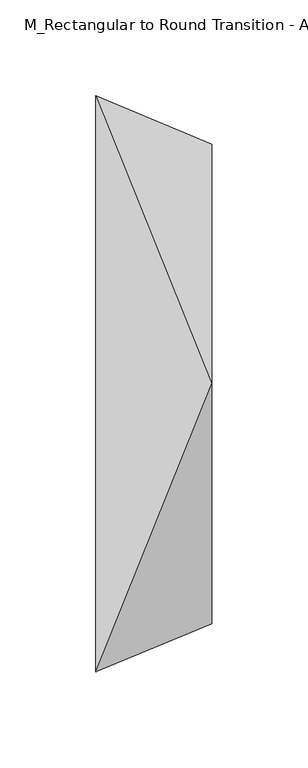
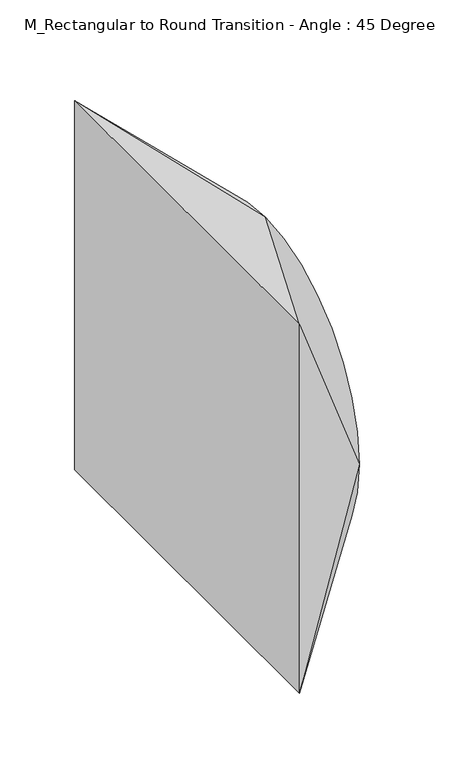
"""IFC4 building model written with IfcOpenShell, lengths in millimetres: duct fitting geometry, M_Rectangular to Round Transition - Angle : 45 Degree."""

from ifc_helpers import new_model, si_unit, frame, origin, place, context, project, spatial, circle_curve, source, transform, mapped, element, save
from ifc_brep_helpers import plane_surface, spline_surface, advanced_brep


def m_rectangular_to_round_transition_angle_45_degree_57822a91(model_context):
    return source(origin(), model_context, "Body", "AdvancedBrep", [
        advanced_brep(
        [(0.0, -150.0, -150.0), (0.0, -150.0, 150.0), (0.0, 150.0, 150.0), (0.0, 150.0, -150.0), (60.3553391, -125.0, -6.95e-05), (60.3553391, 0.0, -125.0000695), (60.3553391, 125.0, -6.95e-05), (60.3553391, 0.0, 124.9999305)],
        [
            (0, 1),
            (1, 2),
            (2, 3),
            (3, 0),
            (4, 5, circle_curve(frame((60.3553391, 0.0, -6.95e-05), z_axis=(1.0, 0.0, 0.0), x_axis=(0.0, -1.0, 0.0)), 125.0)),
            (5, 6, circle_curve(frame((60.3553391, 0.0, -6.95e-05), z_axis=(1.0, 0.0, 0.0), x_axis=(0.0, -1.0, 0.0)), 125.0)),
            (6, 7, circle_curve(frame((60.3553391, 0.0, -6.95e-05), z_axis=(1.0, 0.0, 0.0), x_axis=(0.0, -1.0, 0.0)), 125.0)),
            (7, 4, circle_curve(frame((60.3553391, 0.0, -6.95e-05), z_axis=(1.0, 0.0, 0.0), x_axis=(0.0, -1.0, 0.0)), 125.0)),
            (0, 4),
            (4, 1),
            (7, 1),
            (7, 2),
            (6, 2),
            (6, 3),
            (5, 3),
            (5, 0),
        ],
        [
            plane_surface(frame((0.0, 0.0, 0.0), z_axis=(-1.0, 0.0, 0.0), x_axis=(0.0, 1.0, 0.0))),
            plane_surface(frame((60.3553391, 0.0, -6.95e-05), z_axis=(1.0, 0.0, 0.0), x_axis=(0.0, 1.0, 0.0))),
            plane_surface(frame((60.3553391, -125.0, -6.95e-05), z_axis=(0.3826834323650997, -0.9238795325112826, 0.0), x_axis=(0.0, 0.0, 1.0))),
            spline_surface(2, 1, [[(60.3553391, -125.0, -6.95e-05), (0.0, -150.0, 150.0)], [(60.3553391, -125.0, 124.9999305), (0.0, -150.0, 150.0)], [(60.3553391, 0.0, 124.9999305), (0.0, -150.0, 150.0)]], [3, 3], [2, 2], [0.0, 1.0], [0.0, 1.0], weights=[[1.0, 1.0], [0.7071067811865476, 0.7071067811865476], [1.0, 1.0]]),
            plane_surface(frame((60.3553391, 0.0, 124.9999305), z_axis=(0.38268433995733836, 0.0, 0.923879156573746), x_axis=(0.0, 1.0, 0.0))),
            spline_surface(2, 1, [[(60.3553391, 0.0, 124.9999305), (0.0, 150.0, 150.0)], [(60.3553391, 125.0, 124.9999305), (0.0, 150.0, 150.0)], [(60.3553391, 125.0, -6.95e-05), (0.0, 150.0, 150.0)]], [3, 3], [2, 2], [0.0, 1.0], [0.0, 1.0], weights=[[1.0, 1.0], [0.7071067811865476, 0.7071067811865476], [1.0, 1.0]]),
            plane_surface(frame((60.3553391, 125.0, -6.95e-05), z_axis=(0.3826834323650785, 0.9238795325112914, 0.0), x_axis=(0.0, 0.0, -1.0))),
            spline_surface(2, 1, [[(60.3553391, 125.0, -6.95e-05), (0.0, 150.0, -150.0)], [(60.3553391, 125.0, -125.0000695), (0.0, 150.0, -150.0)], [(60.3553391, 0.0, -125.0000695), (0.0, 150.0, -150.0)]], [3, 3], [2, 2], [0.0, 1.0], [0.0, 1.0], weights=[[1.0, 1.0], [0.7071067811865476, 0.7071067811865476], [1.0, 1.0]]),
            plane_surface(frame((60.3553391, 0.0, -125.0000695), z_axis=(0.382682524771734, 0.0, -0.9238799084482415), x_axis=(0.0, -1.0, 0.0))),
            spline_surface(2, 1, [[(60.3553391, 0.0, -125.0000695), (0.0, -150.0, -150.0)], [(60.3553391, -125.0, -125.0000695), (0.0, -150.0, -150.0)], [(60.3553391, -125.0, -6.95e-05), (0.0, -150.0, -150.0)]], [3, 3], [2, 2], [0.0, 1.0], [0.0, 1.0], weights=[[1.0, 1.0], [0.7071067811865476, 0.7071067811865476], [1.0, 1.0]]),
        ],
        [
            (0, [[1, 2, 3, 4]]),
            (1, [[5, 6, 7, 8]]),
            (2, [[-1, 9, 10]]),
            (3, [[-8, 11, -10]]),
            (4, [[-2, -11, 12]]),
            (5, [[-7, 13, -12]]),
            (6, [[-3, -13, 14]]),
            (7, [[-6, 15, -14]]),
            (8, [[-4, -15, 16]]),
            (9, [[-5, -9, -16]]),
        ],
    ),
        advanced_brep(
        [(0.0, -150.0, -150.0), (0.0, -150.0, 150.0), (0.0, 150.0, 150.0), (0.0, 150.0, -150.0), (60.3553391, -125.0, -6.95e-05), (60.3553391, 0.0, -125.0000695), (60.3553391, 125.0, -6.95e-05), (60.3553391, 0.0, 124.9999305)],
        [
            (0, 1),
            (1, 2),
            (2, 3),
            (3, 0),
            (4, 5, circle_curve(frame((60.3553391, 0.0, -6.95e-05), z_axis=(1.0, 0.0, 0.0), x_axis=(0.0, -1.0, 0.0)), 125.0)),
            (5, 6, circle_curve(frame((60.3553391, 0.0, -6.95e-05), z_axis=(1.0, 0.0, 0.0), x_axis=(0.0, -1.0, 0.0)), 125.0)),
            (6, 7, circle_curve(frame((60.3553391, 0.0, -6.95e-05), z_axis=(1.0, 0.0, 0.0), x_axis=(0.0, -1.0, 0.0)), 125.0)),
            (7, 4, circle_curve(frame((60.3553391, 0.0, -6.95e-05), z_axis=(1.0, 0.0, 0.0), x_axis=(0.0, -1.0, 0.0)), 125.0)),
            (0, 4),
            (4, 1),
            (7, 1),
            (7, 2),
            (6, 2),
            (6, 3),
            (5, 3),
            (5, 0),
        ],
        [
            plane_surface(frame((0.0, 0.0, 0.0), z_axis=(-1.0, 0.0, 0.0), x_axis=(0.0, 1.0, 0.0))),
            plane_surface(frame((60.3553391, 0.0, -6.95e-05), z_axis=(1.0, 0.0, 0.0), x_axis=(0.0, 1.0, 0.0))),
            plane_surface(frame((60.3553391, -125.0, -6.95e-05), z_axis=(0.3826834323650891, -0.9238795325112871, 0.0), x_axis=(0.0, 0.0, 1.0))),
            spline_surface(2, 1, [[(60.3553391, -125.0, -6.95e-05), (0.0, -150.0, 150.0)], [(60.3553391, -125.0, 124.9999305), (0.0, -150.0, 150.0)], [(60.3553391, 0.0, 124.9999305), (0.0, -150.0, 150.0)]], [3, 3], [2, 2], [0.0, 1.0], [0.0, 1.0], weights=[[1.0, 1.0], [0.7071067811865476, 0.7071067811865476], [1.0, 1.0]]),
            plane_surface(frame((60.3553391, 0.0, 124.9999305), z_axis=(0.3826843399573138, 0.0, 0.9238791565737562), x_axis=(0.0, 1.0, 0.0))),
            spline_surface(2, 1, [[(60.3553391, 0.0, 124.9999305), (0.0, 150.0, 150.0)], [(60.3553391, 125.0, 124.9999305), (0.0, 150.0, 150.0)], [(60.3553391, 125.0, -6.95e-05), (0.0, 150.0, 150.0)]], [3, 3], [2, 2], [0.0, 1.0], [0.0, 1.0], weights=[[1.0, 1.0], [0.7071067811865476, 0.7071067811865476], [1.0, 1.0]]),
            plane_surface(frame((60.3553391, 125.0, -6.95e-05), z_axis=(0.3826834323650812, 0.9238795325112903, 0.0), x_axis=(0.0, 0.0, -1.0))),
            spline_surface(2, 1, [[(60.3553391, 125.0, -6.95e-05), (0.0, 150.0, -150.0)], [(60.3553391, 125.0, -125.0000695), (0.0, 150.0, -150.0)], [(60.3553391, 0.0, -125.0000695), (0.0, 150.0, -150.0)]], [3, 3], [2, 2], [0.0, 1.0], [0.0, 1.0], weights=[[1.0, 1.0], [0.7071067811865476, 0.7071067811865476], [1.0, 1.0]]),
            plane_surface(frame((60.3553391, 0.0, -125.0000695), z_axis=(0.38268252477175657, 0.0, -0.9238799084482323), x_axis=(0.0, -1.0, 0.0))),
            spline_surface(2, 1, [[(60.3553391, 0.0, -125.0000695), (0.0, -150.0, -150.0)], [(60.3553391, -125.0, -125.0000695), (0.0, -150.0, -150.0)], [(60.3553391, -125.0, -6.95e-05), (0.0, -150.0, -150.0)]], [3, 3], [2, 2], [0.0, 1.0], [0.0, 1.0], weights=[[1.0, 1.0], [0.7071067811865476, 0.7071067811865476], [1.0, 1.0]]),
        ],
        [
            (0, [[1, 2, 3, 4]]),
            (1, [[5, 6, 7, 8]]),
            (2, [[-1, 9, 10]]),
            (3, [[-8, 11, -10]]),
            (4, [[-2, -11, 12]]),
            (5, [[-7, 13, -12]]),
            (6, [[-3, -13, 14]]),
            (7, [[-6, 15, -14]]),
            (8, [[-4, -15, 16]]),
            (9, [[-5, -9, -16]]),
        ],
    ),
        advanced_brep(
        [(60.3553391, 0.0, 124.9999305), (60.3553391, -125.0, -6.95e-05), (60.3553391, 0.0, -125.0000695), (60.3553391, 125.0, -6.95e-05), (0.0, -150.0, 150.0), (0.0, 150.0, 150.0), (0.0, 150.0, -150.0), (0.0, -150.0, -150.0)],
        [
            (0, 1, circle_curve(frame((60.3553391, 0.0, -6.95e-05), z_axis=(1.0, 0.0, 0.0), x_axis=(0.0, 1.0, 0.0)), 125.0)),
            (1, 2, circle_curve(frame((60.3553391, 0.0, -6.95e-05), z_axis=(1.0, 0.0, 0.0), x_axis=(0.0, 1.0, 0.0)), 125.0)),
            (2, 3, circle_curve(frame((60.3553391, 0.0, -6.95e-05), z_axis=(1.0, 0.0, 0.0), x_axis=(0.0, 1.0, 0.0)), 125.0)),
            (3, 0, circle_curve(frame((60.3553391, 0.0, -6.95e-05), z_axis=(1.0, 0.0, 0.0), x_axis=(0.0, 1.0, 0.0)), 125.0)),
            (4, 5),
            (5, 6),
            (6, 7),
            (7, 4),
            (0, 4),
            (4, 1),
            (7, 1),
            (7, 2),
            (6, 2),
            (6, 3),
            (5, 3),
            (5, 0),
        ],
        [
            plane_surface(frame((60.3553391, 0.0, -6.95e-05), z_axis=(1.0, 0.0, 0.0), x_axis=(0.0, 0.0, -1.0))),
            plane_surface(frame((0.0, 0.0, 0.0), z_axis=(-1.0, 0.0, 0.0), x_axis=(0.0, 0.0, -1.0))),
            spline_surface(2, 1, [[(0.0, -150.0, 150.0), (60.3553391, 0.0, 124.9999305)], [(0.0, -150.0, 150.0), (60.3553391, -125.0, 124.9999305)], [(0.0, -150.0, 150.0), (60.3553391, -125.0, -6.95e-05)]], [3, 3], [2, 2], [0.0, 1.0], [0.0, 1.0], weights=[[1.0, 1.0], [0.7071067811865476, 0.7071067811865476], [1.0, 1.0]]),
            plane_surface(frame((0.0, -150.0, 0.0), z_axis=(0.3826834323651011, -0.9238795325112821, 0.0), x_axis=(0.0, 0.0, -1.0))),
            spline_surface(2, 1, [[(0.0, -150.0, -150.0), (60.3553391, -125.0, -6.95e-05)], [(0.0, -150.0, -150.0), (60.3553391, -125.0, -125.0000695)], [(0.0, -150.0, -150.0), (60.3553391, 0.0, -125.0000695)]], [3, 3], [2, 2], [0.0, 1.0], [0.0, 1.0], weights=[[1.0, 1.0], [0.7071067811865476, 0.7071067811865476], [1.0, 1.0]]),
            plane_surface(frame((0.0, 0.0, -150.0), z_axis=(0.3826825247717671, 0.0, -0.9238799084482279), x_axis=(0.0, 1.0, 0.0))),
            spline_surface(2, 1, [[(0.0, 150.0, -150.0), (60.3553391, 0.0, -125.0000695)], [(0.0, 150.0, -150.0), (60.3553391, 125.0, -125.0000695)], [(0.0, 150.0, -150.0), (60.3553391, 125.0, -6.95e-05)]], [3, 3], [2, 2], [0.0, 1.0], [0.0, 1.0], weights=[[1.0, 1.0], [0.7071067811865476, 0.7071067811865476], [1.0, 1.0]]),
            plane_surface(frame((0.0, 150.0, 0.0), z_axis=(0.3826834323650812, 0.9238795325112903, 0.0), x_axis=(0.0, 0.0, 1.0))),
            spline_surface(2, 1, [[(0.0, 150.0, 150.0), (60.3553391, 125.0, -6.95e-05)], [(0.0, 150.0, 150.0), (60.3553391, 125.0, 124.9999305)], [(0.0, 150.0, 150.0), (60.3553391, 0.0, 124.9999305)]], [3, 3], [2, 2], [0.0, 1.0], [0.0, 1.0], weights=[[1.0, 1.0], [0.7071067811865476, 0.7071067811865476], [1.0, 1.0]]),
            plane_surface(frame((0.0, 0.0, 150.0), z_axis=(0.3826843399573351, 0.0, 0.9238791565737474), x_axis=(0.0, -1.0, 0.0))),
        ],
        [
            (0, [[1, 2, 3, 4]]),
            (1, [[5, 6, 7, 8]]),
            (2, [[-1, 9, 10]]),
            (3, [[-8, 11, -10]]),
            (4, [[-2, -11, 12]]),
            (5, [[-7, 13, -12]]),
            (6, [[-3, -13, 14]]),
            (7, [[-6, 15, -14]]),
            (8, [[-4, -15, 16]]),
            (9, [[-5, -9, -16]]),
        ],
    ),
    ])


if __name__ == "__main__":
    model = new_model("IFC4")
    model_context = context("Model", 3, world=origin())
    ifc_project = project(units=[si_unit("LENGTHUNIT", "METRE", prefix="MILLI")], contexts=[model_context])
    site = spatial("IfcSite", under=ifc_project)
    building = spatial("IfcBuilding", under=site)
    placement = place(None, origin())
    m_rectangular_to_round_transition_angle_45_degree_shape = m_rectangular_to_round_transition_angle_45_degree_57822a91(model_context)
    element("IfcDuctFitting", 1, ObjectType="M_Rectangular to Round Transition - Angle : 45 Degree", at=placement, inside=building, context=model_context, shape_type="MappedRepresentation", body=[
        mapped(m_rectangular_to_round_transition_angle_45_degree_shape, transform((0.0, 0.0, 0.0), x_axis=(1.0, 0.0, 0.0), y_axis=(0.0, 1.0, 0.0), z_axis=(0.0, 0.0, 1.0))),
    ])
    save(model, "model.ifc")
